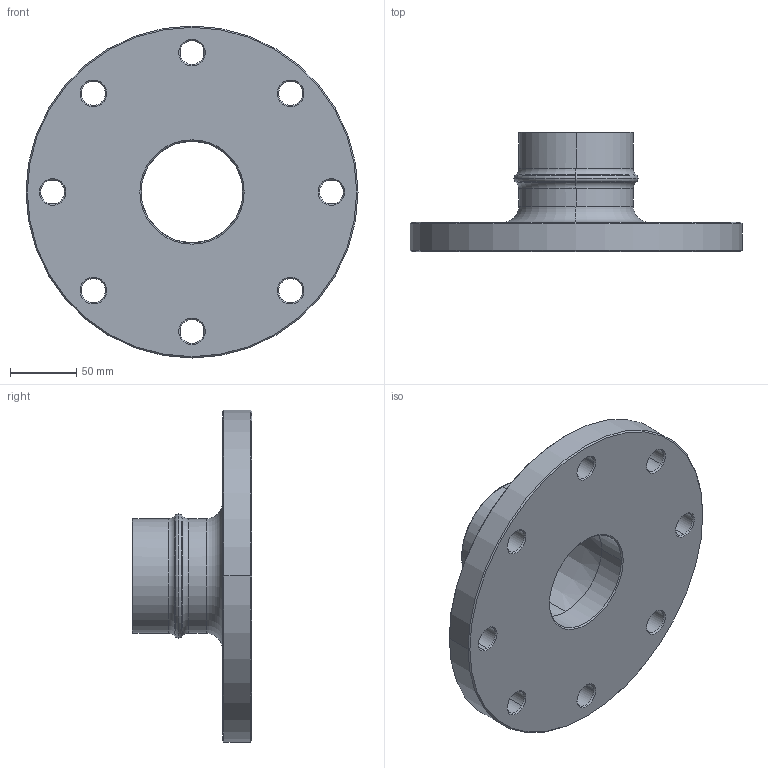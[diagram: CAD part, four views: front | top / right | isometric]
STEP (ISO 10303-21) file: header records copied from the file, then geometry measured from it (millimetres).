
FILE_DESCRIPTION((''),'2;1');
FILE_NAME('AU15077100','2019-12-13T',('Administrator'),(''),'PRO/ENGINEER BY PARAMETRIC TECHNOLOGY CORPORATION, 2009360','PRO/ENGINEER BY PARAMETRIC TECHNOLOGY CORPORATION, 2009360','');
FILE_SCHEMA(('AUTOMOTIVE_DESIGN_CC2 { 1 2 10303 214 -1 1 5 2 }'));
Length unit declared in the file: millimetre
Products named in the file (1): AU15077100
Bounding box: 250 x 90.02 x 250 mm (x, y, z)
Volume: 1026208.2 mm3; surface area: 149966.9 mm2
Topology: 1 solids, 1 shells, 85 faces, 196 edges, 114 vertices
Faces by surface type: cone 44, cylinder 24, torus 14, plane 3
Entity records: 3073 total; most frequent: DIRECTION 494, CARTESIAN_POINT 395, ORIENTED_EDGE 392, AXIS2_PLACEMENT_3D 213, PRESENTATION_STYLE_ASSIGNMENT 197, STYLED_ITEM 197, CURVE_STYLE 196, EDGE_CURVE 196
